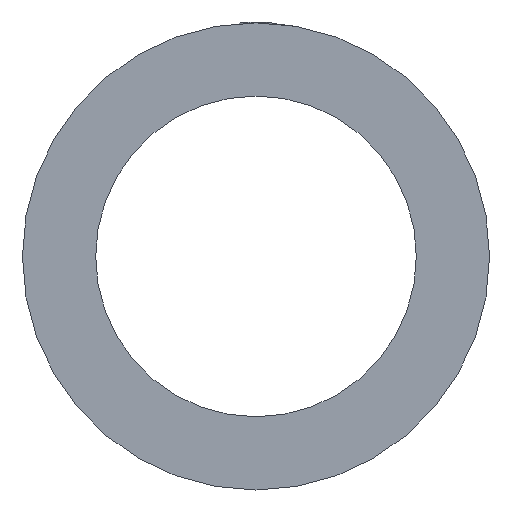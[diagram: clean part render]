
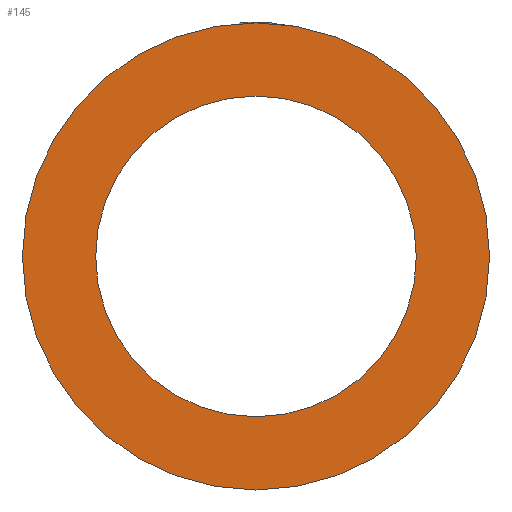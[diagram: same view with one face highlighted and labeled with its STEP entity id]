
A CAD part, left-side view. The second image highlights one B-rep face of the part: STEP entity #145.
In plain terms, the highlighted planar face has unit normal (-1, 0, 0).
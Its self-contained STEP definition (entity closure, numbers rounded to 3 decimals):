
#145 = ADVANCED_FACE ( 'NONE', ( #2272, #3171 ), #3079, .F. ) ;
#149 = EDGE_CURVE ( 'NONE', #1098, #1488, #204, .T. ) ;
#204 = CIRCLE ( 'NONE', #1676, 134. ) ;
#217 = VERTEX_POINT ( 'NONE', #2575 ) ;
#288 = EDGE_CURVE ( 'NONE', #3010, #217, #2492, .T. ) ;
#354 = DIRECTION ( 'NONE',  ( 0., 0., 1. ) ) ;
#357 = DIRECTION ( 'NONE',  ( -1., 0., 0. ) ) ;
#361 = CARTESIAN_POINT ( 'NONE',  ( 0., 0., 0. ) ) ;
#369 = DIRECTION ( 'NONE',  ( 0., 0., 1. ) ) ;
#380 = DIRECTION ( 'NONE',  ( -1., 0., 0. ) ) ;
#387 = CARTESIAN_POINT ( 'NONE',  ( 0., 0., 0. ) ) ;
#566 = AXIS2_PLACEMENT_3D ( 'NONE', #2304, #2301, #2300 ) ;
#650 = CIRCLE ( 'NONE', #1083, 134. ) ;
#678 = EDGE_CURVE ( 'NONE', #217, #3010, #2948, .T. ) ;
#684 = EDGE_CURVE ( 'NONE', #1488, #1098, #650, .T. ) ;
#1083 = AXIS2_PLACEMENT_3D ( 'NONE', #361, #357, #354 ) ;
#1089 = AXIS2_PLACEMENT_3D ( 'NONE', #387, #380, #369 ) ;
#1098 = VERTEX_POINT ( 'NONE', #2109 ) ;
#1328 = EDGE_LOOP ( 'NONE', ( #1741, #1621 ) ) ;
#1359 = CARTESIAN_POINT ( 'NONE',  ( 0., 0., -134. ) ) ;
#1488 = VERTEX_POINT ( 'NONE', #1359 ) ;
#1606 = ORIENTED_EDGE ( 'NONE', *, *, #678, .F. ) ;
#1621 = ORIENTED_EDGE ( 'NONE', *, *, #684, .T. ) ;
#1676 = AXIS2_PLACEMENT_3D ( 'NONE', #2660, #3027, #3025 ) ;
#1741 = ORIENTED_EDGE ( 'NONE', *, *, #149, .T. ) ;
#1749 = ORIENTED_EDGE ( 'NONE', *, *, #288, .F. ) ;
#2109 = CARTESIAN_POINT ( 'NONE',  ( 0., 0., 134. ) ) ;
#2272 = FACE_BOUND ( 'NONE', #2615, .T. ) ;
#2300 = DIRECTION ( 'NONE',  ( 0., 0., 1. ) ) ;
#2301 = DIRECTION ( 'NONE',  ( -1., 0., 0. ) ) ;
#2304 = CARTESIAN_POINT ( 'NONE',  ( 0., 0., 0. ) ) ;
#2492 = CIRCLE ( 'NONE', #566, 92. ) ;
#2575 = CARTESIAN_POINT ( 'NONE',  ( 0., 0., 92. ) ) ;
#2615 = EDGE_LOOP ( 'NONE', ( #1606, #1749 ) ) ;
#2660 = CARTESIAN_POINT ( 'NONE',  ( 0., 0., 0. ) ) ;
#2891 = AXIS2_PLACEMENT_3D ( 'NONE', #3050, #3047, #3046 ) ;
#2948 = CIRCLE ( 'NONE', #1089, 92. ) ;
#3010 = VERTEX_POINT ( 'NONE', #3152 ) ;
#3025 = DIRECTION ( 'NONE',  ( 0., 0., 1. ) ) ;
#3027 = DIRECTION ( 'NONE',  ( -1., 0., 0. ) ) ;
#3046 = DIRECTION ( 'NONE',  ( 0., 0., -1. ) ) ;
#3047 = DIRECTION ( 'NONE',  ( 1., 0., 0. ) ) ;
#3050 = CARTESIAN_POINT ( 'NONE',  ( 0., 92., 0. ) ) ;
#3079 = PLANE ( 'NONE',  #2891 ) ;
#3152 = CARTESIAN_POINT ( 'NONE',  ( 0., 0., -92. ) ) ;
#3171 = FACE_OUTER_BOUND ( 'NONE', #1328, .T. ) ;
